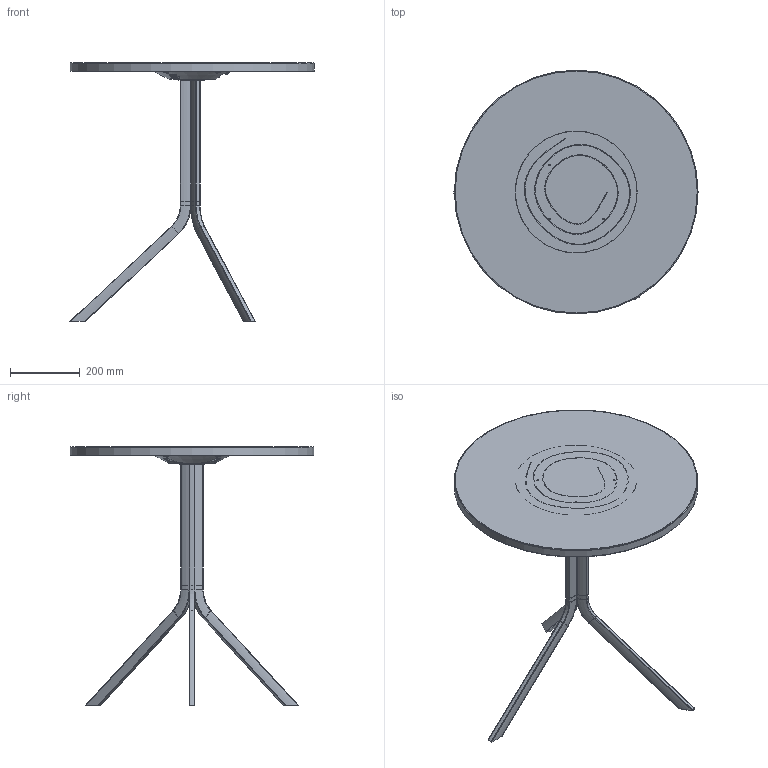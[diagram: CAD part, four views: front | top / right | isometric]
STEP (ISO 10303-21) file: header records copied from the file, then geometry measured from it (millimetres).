
FILE_DESCRIPTION(('STEP AP203'),'1');
FILE_NAME('OKTV10FXX + OKTO10FXX.stp','2024-07-01T12:23:33',(' '),(' '),'Spatial InterOp 3D',' ',' ');
FILE_SCHEMA(('CONFIG_CONTROL_DESIGN'));
Length unit declared in the file: millimetre
Products named in the file (26): OKTO10FXX; Parte MAF 3; OKTO00P90 - PER LAMIERA; 80UT15HR22FXX; Assieme MAF 2; MECCANISMO; 21; 20; 19; 18; 17; 16; 15; 14; 13; 12; 11; 10; 2; 1; _OKTV10FXX; 90OKPS10F00; 20OKGT10F00; ASSEM1
Assembly tree (27 placements, depth 4):
  Assieme MAF 2
    OKTO10FXX
      Parte MAF 3
      OKTO00P90 - PER LAMIERA
      80UT15HR22FXX
    MECCANISMO
      21
      20
      19
      18
      17
      16
      15
      14
      13
      12
      11
      10
      2
      1
    _OKTV10FXX
      90OKPS10F00
      20OKGT10F00  x3
        ASSEM1
        (unnamed)
        20OKGT10F00
Bounding box: 701.09 x 700 x 743.71 mm (x, y, z)
Volume: 2585666.6 mm3; surface area: 1742505.3 mm2
Topology: 21 solids, 21 shells, 3519 faces, 8508 edges, 5026 vertices
Faces by surface type: plane 1230, bspline 999, cylinder 660, torus 278, cone 155, sphere 96, extrusion 80, offset 13, revolution 8
Full cylindrical faces by diameter (mm): 4.2 x4, 4.5 x1, 4.8 x1, 5.12 x1, 5.5 x3, 5.6 x2, 5.601 x1, 6 x4, 6.8 x2, 8 x19, 8.1 x2, 8.5 x2, 9 x1, 9.6 x1, 10 x1, 11 x3, 14 x3, 15.532 x2, 20 x1, 69.6 x1, 350 x1, 696 x1, 700 x1
Entity records: 232495 total; most frequent: CARTESIAN_POINT 160625, ORIENTED_EDGE 15564, DIRECTION 12789, EDGE_CURVE 7782, AXIS2_PLACEMENT_3D 4813, VERTEX_POINT 4790, EDGE_LOOP 3785, FACE_OUTER_BOUND 3501
